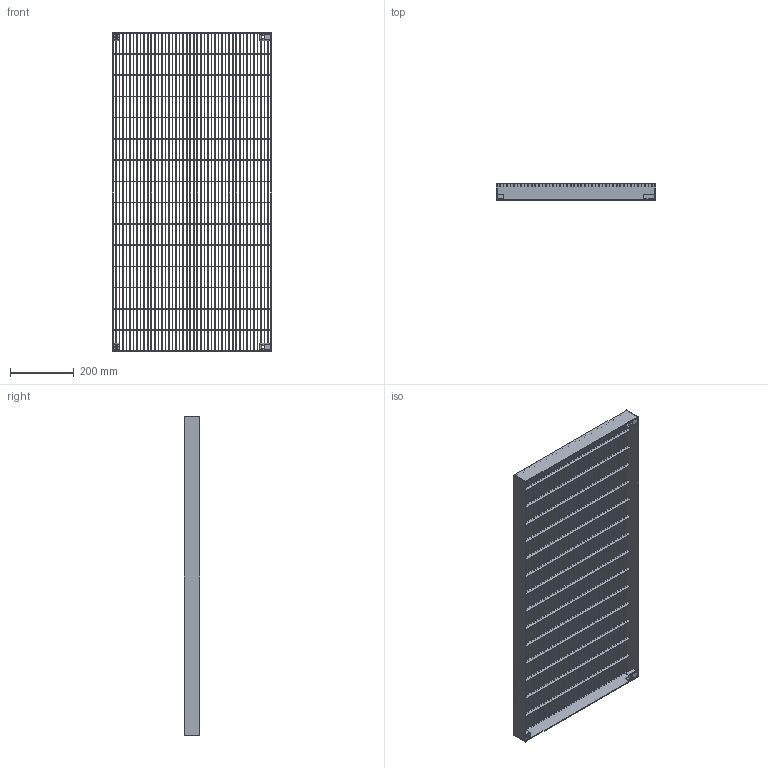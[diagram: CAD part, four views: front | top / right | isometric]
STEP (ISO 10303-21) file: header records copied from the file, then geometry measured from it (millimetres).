
FILE_DESCRIPTION (( 'STEP AP203' ), '1' );
FILE_NAME ('13012510G_Trinrist_500x1000_10x60_20x2_mm_.STEP', '2015-01-05T13:17:24', ( '' ), ( '' ), 'SwSTEP 2.0', 'SolidWorks 2013', '' );
FILE_SCHEMA (( 'CONFIG_CONTROL_DESIGN' ));
Length unit declared in the file: millimetre
Products named in the file (7): 13012510G_Trinrist_500x1000_10x60_20x2_mm_; 13012510G_Ribbe_20x2x494_mm_; 13012510G_Tvaerstav_20x2x994_mm_; 13012510G_Kantstaal_50x3x494_mm_; 13012510G_Kantstaal_50x3x1000_mm_; 13012510G_Benbeslag_kort_model; 13012510G_Benbeslag_lang_model
Assembly tree (66 placements, depth 2):
  13012510G_Trinrist_500x1000_10x60_20x2_mm_
    13012510G_Ribbe_20x2x494_mm_  x14
    13012510G_Tvaerstav_20x2x994_mm_  x44
    13012510G_Kantstaal_50x3x494_mm_  x2
    13012510G_Kantstaal_50x3x1000_mm_  x2
    13012510G_Benbeslag_kort_model  x2
    13012510G_Benbeslag_lang_model  x2
Bounding box: 500 x 50 x 1000 mm (x, y, z)
Volume: 1585046.7 mm3; surface area: 1686478.5 mm2
Topology: 66 solids, 66 shells, 2944 faces, 8372 edges, 5560 vertices
Faces by surface type: plane 2900, cylinder 36, bspline 8
Full cylindrical faces by diameter (mm): 10 x4
Entity records: 10733 total; most frequent: CARTESIAN_POINT 1735, ORIENTED_EDGE 1384, DIRECTION 1342, EDGE_CURVE 692, VECTOR 648, LINE 648, VERTEX_POINT 452, AXIS2_PLACEMENT_3D 347
